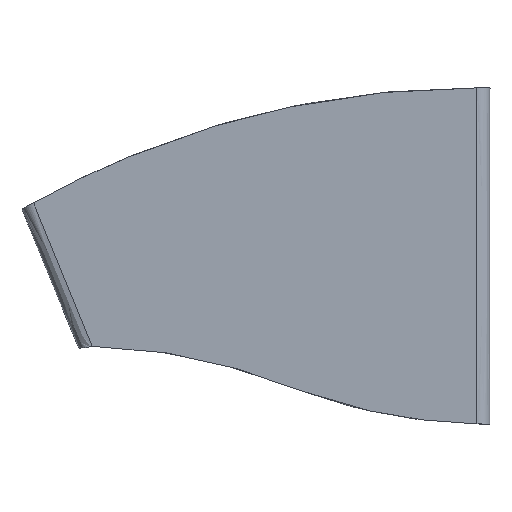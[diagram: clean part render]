
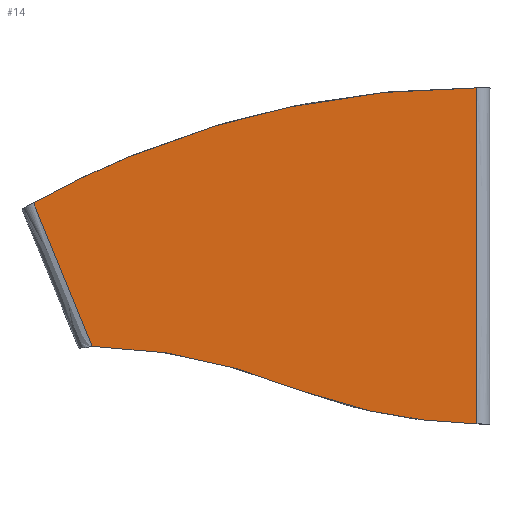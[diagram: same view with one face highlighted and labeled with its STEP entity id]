
A CAD part, top view. The second image highlights one B-rep face of the part: STEP entity #14.
In plain terms, the highlighted planar face has unit normal (0, 0, 1).
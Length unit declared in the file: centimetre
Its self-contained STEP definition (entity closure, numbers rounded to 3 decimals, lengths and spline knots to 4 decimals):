
#14=ADVANCED_FACE($,(#25),#123,.T.);
#25=FACE_OUTER_BOUND($,#36,.T.);
#36=EDGE_LOOP($,(#47,#48,#49,#50,#51));
#47=ORIENTED_EDGE($,*,*,#88,.T.);
#48=ORIENTED_EDGE($,*,*,#97,.T.);
#49=ORIENTED_EDGE($,*,*,#86,.T.);
#50=ORIENTED_EDGE($,*,*,#87,.T.);
#51=ORIENTED_EDGE($,*,*,#85,.F.);
#85=EDGE_CURVE($,#104,#105,#132,.T.);
#86=EDGE_CURVE($,#106,#107,#133,.T.);
#87=EDGE_CURVE($,#107,#105,#134,.T.);
#88=EDGE_CURVE($,#104,#112,#135,.T.);
#97=EDGE_CURVE($,#112,#106,#139,.T.);
#104=VERTEX_POINT($,#1735);
#105=VERTEX_POINT($,#1736);
#106=VERTEX_POINT($,#1737);
#107=VERTEX_POINT($,#1738);
#112=VERTEX_POINT($,#1743);
#123=PLANE($,#232);
#132=B_SPLINE_CURVE_WITH_KNOTS($,3,(#242,#243,#244,#245),.UNSPECIFIED.,.F.,
.F.,(4,4),(14.5765,46.4292),.UNSPECIFIED.);
#133=B_SPLINE_CURVE_WITH_KNOTS($,3,(#246,#247,#248,#249),.UNSPECIFIED.,.F.,
.F.,(4,4),(0.,69.0734),.UNSPECIFIED.);
#134=B_SPLINE_CURVE_WITH_KNOTS($,3,(#250,#251,#252,#253,#254),.UNSPECIFIED.,
.F.,.F.,(4,1,4),(326.7989,374.2989,421.799),.UNSPECIFIED.);
#135=B_SPLINE_CURVE_WITH_KNOTS($,3,(#255,#256,#257,#258),.UNSPECIFIED.,.F.,
.F.,(4,4),(101.5835,101.8756),.UNSPECIFIED.);
#139=B_SPLINE_CURVE_WITH_KNOTS($,3,(#279,#280,#281,#282,#283,#284,#285),
.UNSPECIFIED.,.F.,.F.,(4,3,4),(101.8756,142.2769,182.5865),
.UNSPECIFIED.);
#232=AXIS2_PLACEMENT_3D($,#737,#237,$);
#237=DIRECTION($,(0.,0.,1.));
#242=CARTESIAN_POINT($,(9.4622,13.4567,40.3438));
#243=CARTESIAN_POINT($,(5.4399,23.2829,40.3438));
#244=CARTESIAN_POINT($,(1.4176,33.1091,40.3438));
#245=CARTESIAN_POINT($,(-2.6047,42.9352,40.3438));
#246=CARTESIAN_POINT($,(88.5,-2.4769,40.3438));
#247=CARTESIAN_POINT($,(88.5,20.5475,40.3438));
#248=CARTESIAN_POINT($,(88.5,43.572,40.3438));
#249=CARTESIAN_POINT($,(88.5,66.5965,40.3438));
#250=CARTESIAN_POINT($,(88.5,66.5965,40.3438));
#251=CARTESIAN_POINT($,(72.8152,66.6437,40.3438));
#252=CARTESIAN_POINT($,(40.8991,62.6535,40.3438));
#253=CARTESIAN_POINT($,(11.0749,50.6089,40.3438));
#254=CARTESIAN_POINT($,(-2.6047,42.9352,40.3438));
#255=CARTESIAN_POINT($,(9.4622,13.4567,40.3438));
#256=CARTESIAN_POINT($,(9.5589,13.455,40.3438));
#257=CARTESIAN_POINT($,(9.6563,13.4561,40.3438));
#258=CARTESIAN_POINT($,(9.7525,13.4506,40.3438));
#279=CARTESIAN_POINT($,(9.7525,13.4506,40.3438));
#280=CARTESIAN_POINT($,(23.1494,13.1559,40.3438));
#281=CARTESIAN_POINT($,(36.6886,10.4217,40.3438));
#282=CARTESIAN_POINT($,(49.153,5.504,40.3438));
#283=CARTESIAN_POINT($,(61.603,0.5909,40.3438));
#284=CARTESIAN_POINT($,(75.1196,-2.1505,40.3438));
#285=CARTESIAN_POINT($,(88.5,-2.4769,40.3438));
#737=CARTESIAN_POINT($,(-3.5157,-2.4769,40.3438));
#1735=CARTESIAN_POINT($,(9.4622,13.4567,40.3438));
#1736=CARTESIAN_POINT($,(-2.6047,42.9352,40.3438));
#1737=CARTESIAN_POINT($,(88.5,-2.4769,40.3438));
#1738=CARTESIAN_POINT($,(88.5,66.5965,40.3438));
#1743=CARTESIAN_POINT($,(9.7525,13.4506,40.3438));
